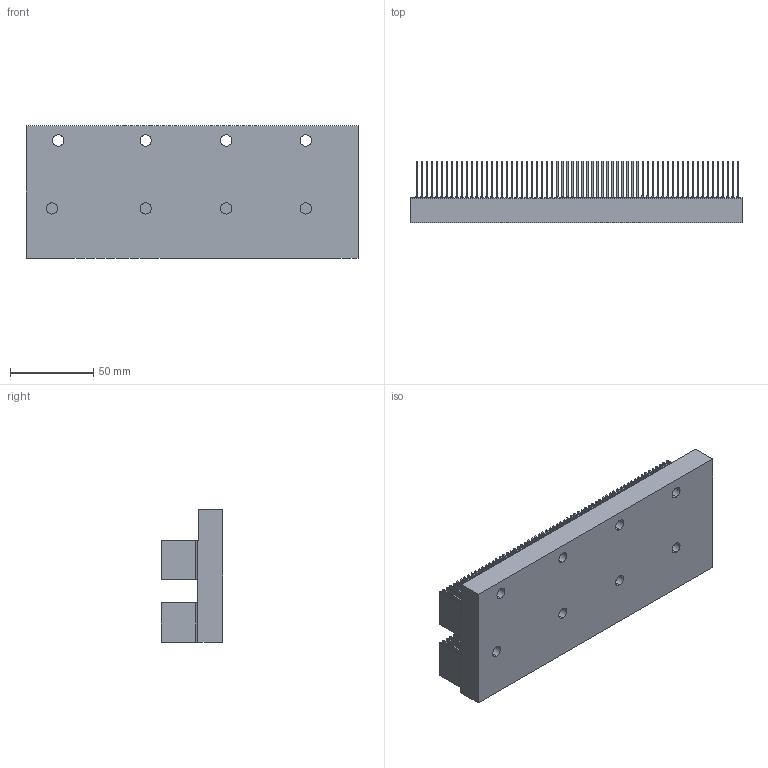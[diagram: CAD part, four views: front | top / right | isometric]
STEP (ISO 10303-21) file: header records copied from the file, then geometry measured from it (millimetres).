
FILE_DESCRIPTION (( 'STEP AP214' ), '1' );
FILE_NAME ('肣莓え.STEP', '2024-03-20T12:41:51', ( '' ), ( '' ), 'SwSTEP 2.0', 'SolidWorks 2023', '' );
FILE_SCHEMA (( 'AUTOMOTIVE_DESIGN' ));
Length unit declared in the file: millimetre
Products named in the file (1): 铜铲片
Bounding box: 200 x 37 x 80 mm (x, y, z)
Volume: 289453.2 mm3; surface area: 186546 mm2
Topology: 1 solids, 1 shells, 808 faces, 2406 edges, 1604 vertices
Faces by surface type: plane 532, cylinder 276
Entity records: 27121 total; most frequent: CARTESIAN_POINT 4819, ORIENTED_EDGE 4812, DIRECTION 4576, EDGE_CURVE 2406, LINE 1854, VECTOR 1854, VERTEX_POINT 1604, AXIS2_PLACEMENT_3D 1361
